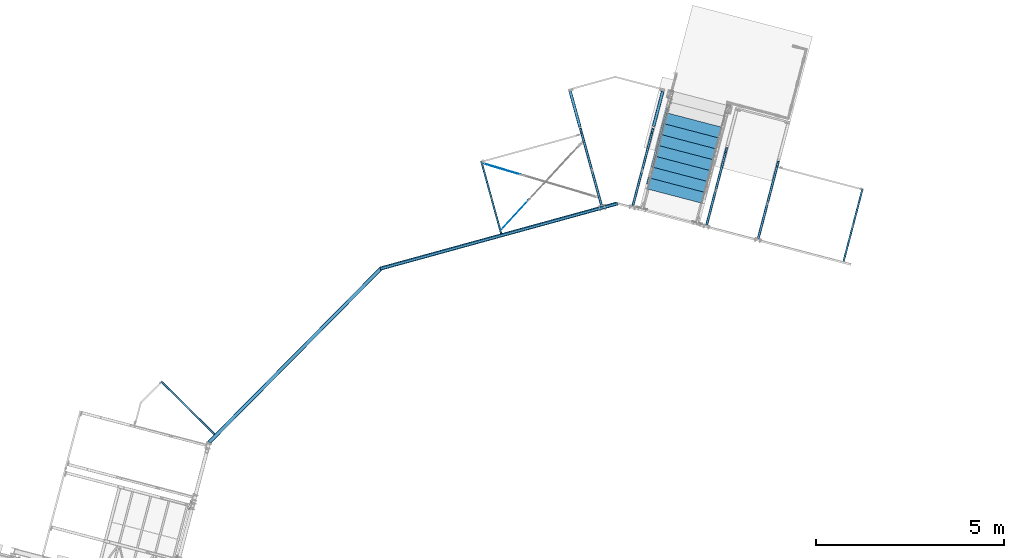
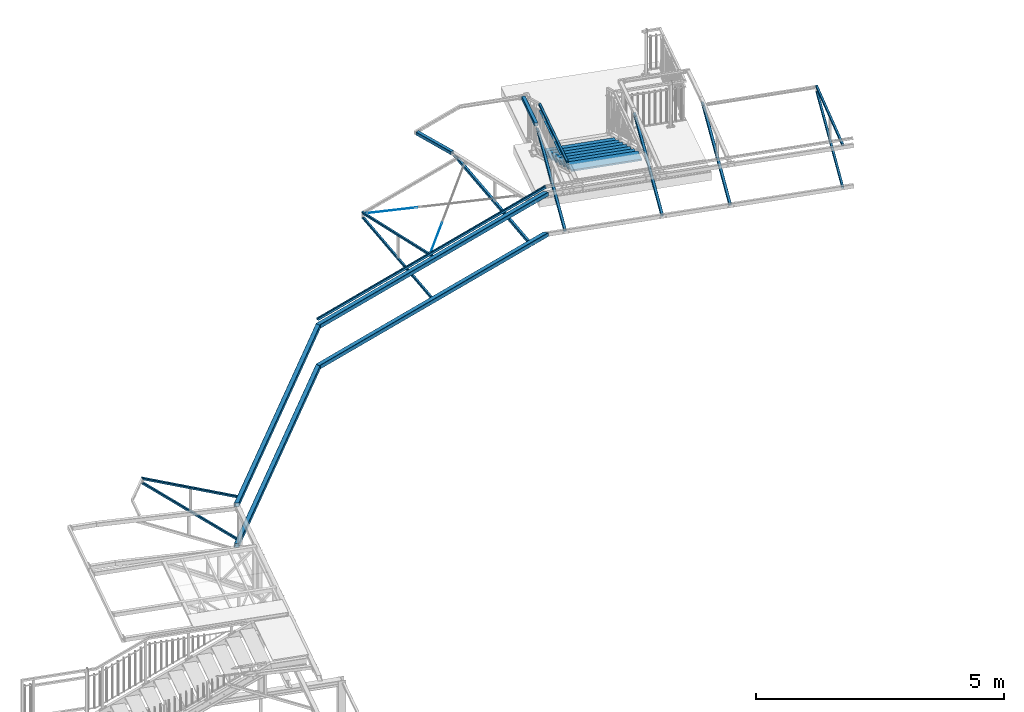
# One storey, part 50 of 169: 28 discrete accessories, 18 elements without a shape of their own.
"""IFC2X3 building model written with IfcOpenShell, lengths in millimetres."""

from ifc_helpers import new_model, si_unit, frame, origin_with_axes, origin_2d_with_axis, place, context, subcontext, project, spatial, polyline, hollow_rectangle, circle, l_section, outline, extrude, boolean, clip, halfspace, material, type_object, element, aggregate, save


model = new_model("IFC2X3")

# Units and contexts
model_context = context("Model", 3, precision=1e-05, world=origin_with_axes())
body_context = subcontext(model_context, "Body", "Model", "MODEL_VIEW")
ifc_project = project(units=[si_unit("LENGTHUNIT", "METRE", prefix="MILLI"), si_unit("AREAUNIT", "SQUARE_METRE"), si_unit("VOLUMEUNIT", "CUBIC_METRE"), si_unit("MASSUNIT", "GRAM", prefix="KILO"), si_unit("TIMEUNIT", "SECOND"), si_unit("PLANEANGLEUNIT", "RADIAN"), si_unit("SOLIDANGLEUNIT", "STERADIAN"), si_unit("THERMODYNAMICTEMPERATUREUNIT", "DEGREE_CELSIUS"), si_unit("LUMINOUSINTENSITYUNIT", "LUMEN")], contexts=[model_context])

# Site, building, storey
site_placement = place(None, origin_with_axes())
site = spatial("IfcSite", under=ifc_project, at=site_placement, Name="Undefined", CompositionType="ELEMENT")
building_placement = place(site_placement, origin_with_axes())
building = spatial("IfcBuilding", under=site, at=building_placement, Name="Undefined", CompositionType="ELEMENT")
storey_placement = place(building_placement, origin_with_axes())
storey = spatial("IfcBuildingStorey", under=building, at=storey_placement, Name="Undefined", CompositionType="ELEMENT", Elevation=0.0)

# Assembly, discrete accessories
assembly_1_placement = place(storey_placement, origin_with_axes())
assembly_1 = element("IfcElementAssembly", 1, at=assembly_1_placement, inside=storey, Name="Steel Assembly", AssemblyPlace="NOTDEFINED", PredefinedType="RIGID_FRAME")
ifc_material_1 = material(Name="STEEL/S235")
discrete_accessory_type_1 = type_object("IfcDiscreteAccessoryType", Name="BEAM")
discrete_accessory_1_placement = place(assembly_1_placement, frame((-17909.7002289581, 16537.7129139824, 13827.2364865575), z_axis=(0.000325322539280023, 0.000595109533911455, 0.999999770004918), x_axis=(-0.702997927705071, -0.711191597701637, 0.00065192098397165)))
discrete_accessory_1 = element("IfcDiscreteAccessory", 2, at=discrete_accessory_1_placement, type_object=discrete_accessory_type_1, material=ifc_material_1, Name="BEAM", ObjectType="SHS100*5", context=body_context, shape_type="Clipping", body=[
    clip(extrude(hollow_rectangle(XDim=100.0, YDim=100.0, WallThickness=5.0, InnerFilletRadius=5.0, OuterFilletRadius=10.0, at=origin_2d_with_axis()), frame((6612.14892398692, -6.80554979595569e-13, -3.63726191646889e-12), z_axis=(-1.0, -3.46944695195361e-18, -1.38777878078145e-17), x_axis=(1.73472347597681e-18, -1.0, 0.0)), (0.0, 0.0, 1.0), 6612.15), halfspace(frame((6497.75322202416, 50.0520062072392, -0.0521146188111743), z_axis=(0.965777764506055, 0.259370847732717, -0.000270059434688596), x_axis=(-8.63719833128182e-11, -0.00104120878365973, -0.999999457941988)), False)),
])
discrete_accessory_2_placement = place(assembly_1_placement, frame((-17910.1098303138, 16537.2011124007, 12827.2367014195), z_axis=(0.000325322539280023, 0.000595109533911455, 0.999999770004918), x_axis=(-0.702997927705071, -0.711191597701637, 0.00065192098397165)))
discrete_accessory_2 = element("IfcDiscreteAccessory", 3, at=discrete_accessory_2_placement, type_object=discrete_accessory_type_1, material=ifc_material_1, Name="BEAM", ObjectType="SHS100*5", context=body_context, shape_type="Clipping", body=[
    clip(extrude(hollow_rectangle(XDim=100.0, YDim=100.0, WallThickness=5.0, InnerFilletRadius=5.0, OuterFilletRadius=10.0, at=origin_2d_with_axis()), frame((6611.61544886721, 3.32450324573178e-12, 7.16832783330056e-16), z_axis=(-1.0, -3.46944695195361e-18, -1.38777878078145e-17), x_axis=(1.73472347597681e-18, -1.0, 0.0)), (0.0, 0.0, 1.0), 6611.62), halfspace(frame((6497.21974690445, 50.0520062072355, -0.0521146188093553), z_axis=(0.965777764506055, 0.259370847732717, -0.000270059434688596), x_axis=(-8.63719833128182e-11, -0.00104120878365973, -0.999999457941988)), False)),
])

# Assembly, discrete accessory
assembly_2_placement = place(storey_placement, origin_with_axes())
assembly_2 = element("IfcElementAssembly", 4, at=assembly_2_placement, inside=storey, Name="Steel Assembly", AssemblyPlace="NOTDEFINED", PredefinedType="RIGID_FRAME")
discrete_accessory_3_placement = place(assembly_2_placement, frame((-17934.864980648, 16527.4812095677, 14004.4176077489), z_axis=(0.0, 0.0, 1.0), x_axis=(0.964248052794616, 0.265001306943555, 0.0)))
discrete_accessory_3 = element("IfcDiscreteAccessory", 5, at=discrete_accessory_3_placement, type_object=discrete_accessory_type_1, material=ifc_material_1, Name="BEAM", ObjectType="L40*60*6", context=body_context, shape_type="Clipping", body=[
    clip(extrude(l_section(Depth=40.0, Width=60.0, Thickness=6.0, FilletRadius=9.0, at=origin_2d_with_axis()), frame((6575.31260041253, 3.63797880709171e-12, -3.63797880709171e-12), z_axis=(-1.0, -3.46944695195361e-18, -1.38777878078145e-17), x_axis=(1.73472347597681e-18, -1.0, 0.0)), (0.0, 0.0, 1.0), 6575.31), halfspace(frame((6543.28280246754, -30.0000008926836, -1.33928369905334e-06), z_axis=(0.965925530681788, -0.258820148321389, -1.15544247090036e-08), x_axis=(0.0, 0.0, 1.0)), False)),
])
aggregate(assembly_2, [discrete_accessory_3])

# Discrete accessory
discrete_accessory_4_placement = place(assembly_1_placement, frame((-23761.2672779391, 13517.9574207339, 13852.1856614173), z_axis=(-0.703030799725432, -0.711159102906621, 0.000651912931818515), x_axis=(0.629514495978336, -0.622745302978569, -0.46465017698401)))
discrete_accessory_4 = element("IfcDiscreteAccessory", 6, at=discrete_accessory_4_placement, type_object=discrete_accessory_type_1, material=ifc_material_1, Name="BEAM", ObjectType="SHS50*4", context=body_context, shape_type="Clipping", body=[
    clip(clip(extrude(hollow_rectangle(XDim=50.0, YDim=50.0, WallThickness=4.0, InnerFilletRadius=4.0, OuterFilletRadius=8.0, at=origin_2d_with_axis()), frame((2333.39405364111, 1.81898940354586e-12, 8.36001952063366e-13), z_axis=(-1.0, -3.46944695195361e-18, -1.38777878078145e-17), x_axis=(1.73472347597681e-18, -1.0, 0.0)), (0.0, 0.0, 1.0), 2405.73), halfspace(frame((2258.19859049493, -23.2407938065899, 1000.00227735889), z_axis=(-0.885407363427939, -0.464815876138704, 4.55740520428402e-05), x_axis=(0.464815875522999, -0.885407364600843, -2.39244265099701e-05)), True)), halfspace(frame((30.2237848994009, 25.0000000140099, 1.33259163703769e-08), z_axis=(-0.855788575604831, 0.517325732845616, 7.30462110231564e-10), x_axis=(0.0, 0.0, 1.0)), False)),
])

discrete_accessory_5_placement = place(assembly_1_placement, frame((-22347.9672122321, 12120.9428857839, 13855.4534594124), z_axis=(-0.035840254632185, 0.0345118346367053, -0.998761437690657), x_axis=(-0.710288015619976, 0.70215081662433, 0.0497510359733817)))
discrete_accessory_5 = element("IfcDiscreteAccessory", 7, at=discrete_accessory_5_placement, type_object=discrete_accessory_type_1, material=ifc_material_1, Name="BEAM", ObjectType="SHS50*4", context=body_context, shape_type="Clipping", body=[
    clip(clip(extrude(hollow_rectangle(XDim=50.0, YDim=50.0, WallThickness=4.0, InnerFilletRadius=4.0, OuterFilletRadius=8.0, at=origin_2d_with_axis()), frame((2054.56660579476, 3.50768014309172e-12, 1.83324582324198e-12), z_axis=(-1.0, -3.46944695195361e-18, -1.38777878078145e-17), x_axis=(1.73472347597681e-18, -1.0, 0.0)), (0.0, 0.0, 1.0), 2134.29), halfspace(frame((2002.59388138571, 7.60674629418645e-06, -25.0000000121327), z_axis=(-0.689225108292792, 2.3570835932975e-07, -0.724547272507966), x_axis=(0.0, 1.0, 0.0)), True)), halfspace(frame((48.3416809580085, 1.61845782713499e-05, -996.255438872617), z_axis=(0.998752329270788, -1.61183526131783e-08, 0.0499378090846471), x_axis=(1.73472347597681e-18, -1.0, 0.0)), True)),
])

aggregate(assembly_1, [discrete_accessory_1, discrete_accessory_2, discrete_accessory_4, discrete_accessory_5])

# Assembly, discrete accessory
assembly_3_placement = place(storey_placement, origin_with_axes())
assembly_3 = element("IfcElementAssembly", 8, at=assembly_3_placement, inside=storey, Name="Steel Assembly", AssemblyPlace="NOTDEFINED", PredefinedType="RIGID_FRAME")
discrete_accessory_6_placement = place(assembly_3_placement, frame((-14702.9087988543, 17576.6835164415, 13861.718395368), z_axis=(0.013233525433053, -0.0481524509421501, 0.998752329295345), x_axis=(0.678875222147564, 0.733779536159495, 0.0263822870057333)))
discrete_accessory_6 = element("IfcDiscreteAccessory", 9, at=discrete_accessory_6_placement, type_object=discrete_accessory_type_1, material=ifc_material_1, Name="BEAM", ObjectType="D10", context=body_context, shape_type="CSG", body=[
    boolean("DIFFERENCE", boolean("UNION", extrude(circle(Radius=5.0, at=origin_2d_with_axis()), frame((1047.8044891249, -3.72704370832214e-12, 1.82262470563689e-12), z_axis=(-1.0, -3.46944695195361e-18, -1.38777878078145e-17), x_axis=(1.73472347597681e-18, -1.0, 0.0)), (0.0, 0.0, 1.0), 1047.8), extrude(circle(Radius=5.0, at=origin_2d_with_axis()), frame((1047.8044891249, -3.72704370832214e-12, 1.82262470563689e-12), z_axis=(-1.0, -3.46944695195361e-18, -1.38777878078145e-17), x_axis=(-2.54700353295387e-10, 0.0, -1.0)), (0.0, 0.0, 1.0), 100.0)), halfspace(frame((1047.80448912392, 5.02801412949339e-07, -5.00000045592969), z_axis=(1.0, 0.0, 0.0), x_axis=(1.73472347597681e-18, -1.0, 0.0)), False)),
])
aggregate(assembly_3, [discrete_accessory_6])

assembly_4_placement = place(storey_placement, origin_with_axes())
assembly_4 = element("IfcElementAssembly", 10, at=assembly_4_placement, inside=storey, Name="Steel Assembly", AssemblyPlace="NOTDEFINED", PredefinedType="RIGID_FRAME")
discrete_accessory_7_placement = place(assembly_4_placement, frame((-15182.9696449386, 19323.4610377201, 13952.2959233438), z_axis=(0.013233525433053, -0.0481524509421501, 0.998752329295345), x_axis=(0.958527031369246, -0.283777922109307, -0.0263822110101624)))
discrete_accessory_7 = element("IfcDiscreteAccessory", 11, at=discrete_accessory_7_placement, type_object=discrete_accessory_type_1, material=ifc_material_1, Name="BEAM", ObjectType="D10", context=body_context, shape_type="CSG", body=[
    boolean("DIFFERENCE", boolean("UNION", extrude(circle(Radius=5.0, at=origin_2d_with_axis()), frame((1047.8044891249, -3.72704370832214e-12, 1.82262470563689e-12), z_axis=(-1.0, -3.46944695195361e-18, -1.38777878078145e-17), x_axis=(1.73472347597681e-18, -1.0, 0.0)), (0.0, 0.0, 1.0), 1047.8), extrude(circle(Radius=5.0, at=origin_2d_with_axis()), frame((1047.8044891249, -3.72704370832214e-12, 1.82262470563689e-12), z_axis=(-1.0, -3.46944695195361e-18, -1.38777878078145e-17), x_axis=(-2.54700353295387e-10, 0.0, -1.0)), (0.0, 0.0, 1.0), 100.0)), halfspace(frame((1047.80448912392, 5.02801412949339e-07, -5.00000045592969), z_axis=(1.0, 0.0, 0.0), x_axis=(1.73472347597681e-18, -1.0, 0.0)), False)),
])
aggregate(assembly_4, [discrete_accessory_7])

# Assembly, discrete accessories
assembly_5_placement = place(storey_placement, origin_with_axes())
assembly_5 = element("IfcElementAssembly", 12, at=assembly_5_placement, inside=storey, Name="Steel Assembly", AssemblyPlace="NOTDEFINED", PredefinedType="RIGID_FRAME")
ifc_material_2 = material(Name="STEEL/S355")
discrete_accessory_8_placement = place(assembly_5_placement, frame((-15242.9229703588, 19381.4102879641, 13853.6262907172), z_axis=(-0.964260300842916, -0.264956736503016, -2.76482751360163e-10), x_axis=(0.234594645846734, -0.853763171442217, -0.464815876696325)))
discrete_accessory_8 = element("IfcDiscreteAccessory", 13, at=discrete_accessory_8_placement, type_object=discrete_accessory_type_1, material=ifc_material_2, Name="BEAM", ObjectType="SHS50*4", context=body_context, shape_type="Clipping", body=[
    clip(clip(extrude(hollow_rectangle(XDim=50.0, YDim=50.0, WallThickness=4.0, InnerFilletRadius=4.0, OuterFilletRadius=8.0, at=origin_2d_with_axis()), frame((2311.44514548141, -1.69067842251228e-12, -1.81269287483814e-12), z_axis=(-1.0, -3.46944695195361e-18, -1.38777878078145e-17), x_axis=(1.73472347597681e-18, -1.0, 0.0)), (0.0, 0.0, 1.0), 2361.89), halfspace(frame((2258.14268853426, -23.2407957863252, 1000.00230978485), z_axis=(-0.885407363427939, -0.464815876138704, 4.55740520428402e-05), x_axis=(0.464815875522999, -0.885407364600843, -2.39244265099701e-05)), True)), halfspace(frame((30.2237848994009, 25.0000000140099, 1.33259163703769e-08), z_axis=(-0.855788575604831, 0.517325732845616, 7.30462110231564e-10), x_axis=(0.0, 0.0, 1.0)), False)),
])
discrete_accessory_9_placement = place(assembly_5_placement, frame((-14716.30547153, 17465.2310199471, 13856.5224888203), z_axis=(-0.0132335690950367, 0.0481524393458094, -0.99875232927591), x_axis=(-0.264670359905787, 0.96304507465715, 0.0499378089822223)))
discrete_accessory_9 = element("IfcDiscreteAccessory", 14, at=discrete_accessory_9_placement, type_object=discrete_accessory_type_1, material=ifc_material_2, Name="BEAM", ObjectType="SHS50*4", context=body_context, shape_type="CSG", body=[
    boolean("DIFFERENCE", boolean("DIFFERENCE", extrude(hollow_rectangle(XDim=50.0, YDim=50.0, WallThickness=4.0, InnerFilletRadius=4.0, OuterFilletRadius=8.0, at=origin_2d_with_axis()), frame((2021.0559429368, -3.82581100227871e-14, 1.40238927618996e-14), z_axis=(-1.0, -3.46944695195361e-18, -1.38777878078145e-17), x_axis=(1.73472347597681e-18, -1.0, 0.0)), (0.0, 0.0, 1.0), 2021.06), extrude(outline(polyline([(0.0, 0.0), (67.0000000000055, -8.36735125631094e-11), (67.0000000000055, 24.9999999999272), (-6.99999999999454, 24.9999999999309), (0.0, 0.0)])), frame((7.08496076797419, -27.9996776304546, 33.3353439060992), z_axis=(0.0, 1.0, 0.0), x_axis=(0.0499378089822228, -8.51138014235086e-11, -0.99875232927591)), (0.0, 0.0, 1.0), 56.0)), halfspace(frame((2002.59388138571, 7.60674629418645e-06, -25.0000000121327), z_axis=(-0.689225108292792, 2.3570835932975e-07, -0.724547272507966), x_axis=(0.0, 1.0, 0.0)), True)),
])

assembly_6_placement = place(storey_placement, origin_with_axes())
assembly_6 = element("IfcElementAssembly", 15, at=assembly_6_placement, inside=storey, Name="Steel Assembly", AssemblyPlace="NOTDEFINED", PredefinedType="RIGID_FRAME")
discrete_accessory_10_placement = place(assembly_6_placement, frame((-12617.6266953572, 20299.8860769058, 13950.4176077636), z_axis=(-2.54700353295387e-10, 0.0, -1.0), x_axis=(-0.265001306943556, 0.964248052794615, 0.0)))
discrete_accessory_10 = element("IfcDiscreteAccessory", 16, at=discrete_accessory_10_placement, type_object=discrete_accessory_type_1, material=ifc_material_1, Name="BEAM", ObjectType="SHS80*4", context=body_context, shape_type="Clipping", body=[
    clip(clip(extrude(hollow_rectangle(XDim=80.0, YDim=80.0, WallThickness=4.0, InnerFilletRadius=4.0, OuterFilletRadius=8.0, at=origin_2d_with_axis()), frame((995.045780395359, -9.09494701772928e-13, -1.81898940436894e-12), z_axis=(-1.0, -3.46944695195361e-18, -1.38777878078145e-17), x_axis=(1.73472347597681e-18, -1.0, 0.0)), (0.0, 0.0, 1.0), 1036.35), halfspace(frame((995.045780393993, -6.70120243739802e-07, -40.0000000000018), z_axis=(-0.99999999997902, 6.47770058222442e-06, -1.08520736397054e-13), x_axis=(6.47770058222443e-06, 0.99999999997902, -1.67529760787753e-08)), True)), halfspace(frame((1.02154190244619e-05, 0.00025891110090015, -40.0002588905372), z_axis=(-0.999688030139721, -1.62913579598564e-07, 0.0249768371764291), x_axis=(-1.25063525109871e-09, 0.999999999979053, 6.47253026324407e-06)), False)),
])
discrete_accessory_11_placement = place(assembly_6_placement, frame((-12562.356019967, 20098.7725410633, 13849.4885854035), z_axis=(-0.964260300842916, -0.264956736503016, -2.76482751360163e-10), x_axis=(0.234594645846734, -0.853763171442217, -0.464815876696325)))
discrete_accessory_11 = element("IfcDiscreteAccessory", 17, at=discrete_accessory_11_placement, type_object=discrete_accessory_type_1, material=ifc_material_1, Name="BEAM", ObjectType="SHS60*4", context=body_context, shape_type="Clipping", body=[
    clip(clip(extrude(hollow_rectangle(XDim=60.0, YDim=60.0, WallThickness=4.0, InnerFilletRadius=4.0, OuterFilletRadius=8.0, at=origin_2d_with_axis()), frame((2318.94850616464, -4.54747350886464e-13, -3.45133275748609e-14), z_axis=(-1.0, -3.46944695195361e-18, -1.38777878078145e-17), x_axis=(1.73472347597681e-18, -1.0, 0.0)), (0.0, 0.0, 1.0), 2547.59), halfspace(frame((2194.40703923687, 30.0000688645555, -1.35423761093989e-08), z_axis=(-0.885407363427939, -0.464815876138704, 4.55740520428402e-05), x_axis=(4.09255337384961e-05, 2.14852939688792e-05, 0.999999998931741)), True)), halfspace(frame((-198.283756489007, -36.3005821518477, 1000.00009235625), z_axis=(0.420020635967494, -0.907514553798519, 2.31037038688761e-06), x_axis=(0.907514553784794, 0.420020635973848, 4.99097867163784e-06)), True)),
])
aggregate(assembly_6, [discrete_accessory_10, discrete_accessory_11])

assembly_7_placement = place(storey_placement, origin_with_axes())
assembly_7 = element("IfcElementAssembly", 18, at=assembly_7_placement, inside=storey, Name="Steel Assembly", AssemblyPlace="NOTDEFINED", PredefinedType="RIGID_FRAME")
discrete_accessory_12_placement = place(assembly_7_placement, frame((-10656.8294524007, 20316.0997769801, 13950.417607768), z_axis=(-2.54700353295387e-10, 0.0, -1.0), x_axis=(0.252628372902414, 0.967563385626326, 0.0)))
discrete_accessory_12 = element("IfcDiscreteAccessory", 19, at=discrete_accessory_12_placement, type_object=discrete_accessory_type_1, material=ifc_material_1, Name="BEAM", ObjectType="SHS80*4", context=body_context, shape_type="Clipping", body=[
    clip(clip(extrude(hollow_rectangle(XDim=80.0, YDim=80.0, WallThickness=4.0, InnerFilletRadius=4.0, OuterFilletRadius=8.0, at=origin_2d_with_axis()), frame((974.832227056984, -3.58386474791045e-12, 0.0), z_axis=(-1.0, -3.46944695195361e-18, -1.38777878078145e-17), x_axis=(1.73472347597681e-18, -1.0, 0.0)), (0.0, 0.0, 1.0), 1014.34), halfspace(frame((974.832227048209, 5.05679054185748e-10, 40.0), z_axis=(-1.0, -3.46944695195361e-18, -1.38777878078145e-17), x_axis=(1.73472347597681e-18, -1.0, 0.0)), True)), halfspace(frame((1.02154190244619e-05, 0.00025891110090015, -40.0002588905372), z_axis=(-0.999688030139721, -1.62913579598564e-07, 0.0249768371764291), x_axis=(-1.25063525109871e-09, 0.999999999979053, 6.47253026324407e-06)), False)),
])
discrete_accessory_13_placement = place(assembly_7_placement, frame((-10710.523005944, 20110.4569694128, 13857.0448251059), z_axis=(-0.967551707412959, 0.252673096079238, -1.45282683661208e-11), x_axis=(-0.22371861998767, -0.856677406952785, -0.464815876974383)))
discrete_accessory_13 = element("IfcDiscreteAccessory", 20, at=discrete_accessory_13_placement, type_object=discrete_accessory_type_1, material=ifc_material_1, Name="BEAM", ObjectType="SHS60*4", context=body_context, shape_type="Clipping", body=[
    clip(clip(extrude(hollow_rectangle(XDim=60.0, YDim=60.0, WallThickness=4.0, InnerFilletRadius=4.0, OuterFilletRadius=8.0, at=origin_2d_with_axis()), frame((2336.13761597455, -1.68930771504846e-12, 1.81877505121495e-12), z_axis=(-1.0, -3.46944695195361e-18, -1.38777878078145e-17), x_axis=(1.73472347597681e-18, -1.0, 0.0)), (0.0, 0.0, 1.0), 2545.15), halfspace(frame((2212.77988824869, 30.0000688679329, -4.85670170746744e-10), z_axis=(-0.885407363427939, -0.464815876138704, 4.55740520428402e-05), x_axis=(4.09255337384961e-05, 2.14852939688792e-05, 0.999999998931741)), True)), halfspace(frame((-179.844406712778, -36.3005821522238, 1000.00009232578), z_axis=(0.420020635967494, -0.907514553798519, 2.31037038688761e-06), x_axis=(0.907514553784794, 0.420020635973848, 4.99097867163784e-06)), True)),
])
aggregate(assembly_7, [discrete_accessory_12, discrete_accessory_13])

# Discrete accessory
discrete_accessory_14_placement = place(assembly_5_placement, frame((-5095.39755402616, 18646.7637913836, 13852.615452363), z_axis=(-0.967551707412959, 0.252673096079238, -1.45282683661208e-11), x_axis=(-0.22371861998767, -0.856677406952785, -0.464815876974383)))
discrete_accessory_14 = element("IfcDiscreteAccessory", 21, at=discrete_accessory_14_placement, type_object=discrete_accessory_type_1, material=ifc_material_1, Name="BEAM", ObjectType="SHS50*4", context=body_context, shape_type="Clipping", body=[
    clip(clip(extrude(hollow_rectangle(XDim=50.0, YDim=50.0, WallThickness=4.0, InnerFilletRadius=4.0, OuterFilletRadius=8.0, at=origin_2d_with_axis()), frame((2310.40536461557, -7.81241440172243e-13, -4.35565030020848e-14), z_axis=(-1.0, -3.46944695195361e-18, -1.38777878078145e-17), x_axis=(1.73472347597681e-18, -1.0, 0.0)), (0.0, 0.0, 1.0), 2359.86), halfspace(frame((2253.20921889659, -13.9444774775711, 1000.00138531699), z_axis=(-0.885407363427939, -0.464815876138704, 4.55740520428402e-05), x_axis=(0.464815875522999, -0.885407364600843, -2.39244265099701e-05)), True)), halfspace(frame((30.2237848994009, 25.0000000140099, 1.33259163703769e-08), z_axis=(-0.855788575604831, 0.517325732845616, 7.30462110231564e-10), x_axis=(0.0, 0.0, 1.0)), False)),
])

discrete_accessory_15_placement = place(assembly_5_placement, frame((-5597.42744842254, 16723.9962645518, 13855.5116504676), z_axis=(0.0126157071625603, 0.0483179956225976, -0.998752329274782), x_axis=(0.25231349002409, 0.966356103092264, 0.0499378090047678)))
discrete_accessory_15 = element("IfcDiscreteAccessory", 22, at=discrete_accessory_15_placement, type_object=discrete_accessory_type_1, material=ifc_material_1, Name="BEAM", ObjectType="SHS50*4", context=body_context, shape_type="Clipping", body=[
    clip(extrude(hollow_rectangle(XDim=50.0, YDim=50.0, WallThickness=4.0, InnerFilletRadius=4.0, OuterFilletRadius=8.0, at=origin_2d_with_axis()), frame((2030.03246341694, -1.83655767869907e-12, -1.83307558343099e-12), z_axis=(-1.0, -3.46944695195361e-18, -1.38777878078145e-17), x_axis=(1.73472347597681e-18, -1.0, 0.0)), (0.0, 0.0, 1.0), 2030.03), halfspace(frame((2002.59388138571, 7.60674629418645e-06, -25.0000000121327), z_axis=(-0.689225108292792, 2.3570835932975e-07, -0.724547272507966), x_axis=(0.0, 1.0, 0.0)), True)),
])

discrete_accessory_16_placement = place(assembly_5_placement, frame((-17934.8649346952, 16527.4813856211, 12831.4804586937), z_axis=(0.0, 0.0, 1.0), x_axis=(0.964248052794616, 0.265001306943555, 0.0)))
discrete_accessory_16 = element("IfcDiscreteAccessory", 23, at=discrete_accessory_16_placement, type_object=discrete_accessory_type_1, material=ifc_material_1, Name="BEAM", ObjectType="SHS100*5", context=body_context, shape_type="Clipping", body=[
    clip(extrude(hollow_rectangle(XDim=100.0, YDim=100.0, WallThickness=5.0, InnerFilletRadius=5.0, OuterFilletRadius=10.0, at=origin_2d_with_axis()), frame((6626.03241930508, 7.27595761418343e-12, 0.0), z_axis=(-1.0, -3.46944695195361e-18, -1.38777878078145e-17), x_axis=(1.73472347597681e-18, -1.0, 0.0)), (0.0, 0.0, 1.0), 6626.03), halfspace(frame((6577.92363608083, -49.9999999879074, -2.24960785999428e-06), z_axis=(0.882824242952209, 0.469703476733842, 2.09688237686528e-08), x_axis=(0.0, 0.0, 1.0)), False)),
])

aggregate(assembly_5, [discrete_accessory_8, discrete_accessory_9, discrete_accessory_14, discrete_accessory_15, discrete_accessory_16])

# Assembly, discrete accessory
assembly_8_placement = place(storey_placement, origin_with_axes())
assembly_8 = element("IfcElementAssembly", 24, at=assembly_8_placement, inside=storey, Name="Steel Assembly", AssemblyPlace="NOTDEFINED", PredefinedType="RIGID_FRAME")
discrete_accessory_17_placement = place(assembly_8_placement, frame((-17934.8649346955, 16527.4813856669, 13830.4804586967), z_axis=(0.0, 0.0, 1.0), x_axis=(0.964248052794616, 0.265001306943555, 0.0)))
discrete_accessory_17 = element("IfcDiscreteAccessory", 25, at=discrete_accessory_17_placement, type_object=discrete_accessory_type_1, material=ifc_material_1, Name="BEAM", ObjectType="SHS100*5", context=body_context, shape_type="Clipping", body=[
    clip(extrude(hollow_rectangle(XDim=100.0, YDim=100.0, WallThickness=5.0, InnerFilletRadius=5.0, OuterFilletRadius=10.0, at=origin_2d_with_axis()), frame((6626.03241930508, 7.27595761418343e-12, 0.0), z_axis=(-1.0, -3.46944695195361e-18, -1.38777878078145e-17), x_axis=(1.73472347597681e-18, -1.0, 0.0)), (0.0, 0.0, 1.0), 6626.03), halfspace(frame((6577.92363608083, -49.9999999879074, -2.24960785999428e-06), z_axis=(0.882824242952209, 0.469703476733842, 2.09688237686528e-08), x_axis=(0.0, 0.0, 1.0)), False)),
])
aggregate(assembly_8, [discrete_accessory_17])

assembly_9_placement = place(storey_placement, origin_with_axes())
assembly_9 = element("IfcElementAssembly", 26, at=assembly_9_placement, inside=storey, Name="Steel Assembly", AssemblyPlace="NOTDEFINED", PredefinedType="RIGID_FRAME")
discrete_accessory_18_placement = place(assembly_9_placement, frame((-7372.347592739, 19238.8677427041, 13857.0448251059), z_axis=(-0.967551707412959, 0.252673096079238, -1.45282683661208e-11), x_axis=(-0.22371861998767, -0.856677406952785, -0.464815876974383)))
discrete_accessory_18 = element("IfcDiscreteAccessory", 27, at=discrete_accessory_18_placement, type_object=discrete_accessory_type_1, material=ifc_material_1, Name="BEAM", ObjectType="SHS60*4", context=body_context, shape_type="Clipping", body=[
    clip(clip(extrude(hollow_rectangle(XDim=60.0, YDim=60.0, WallThickness=4.0, InnerFilletRadius=4.0, OuterFilletRadius=8.0, at=origin_2d_with_axis()), frame((2336.13761597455, -1.68930771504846e-12, 1.81877505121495e-12), z_axis=(-1.0, -3.46944695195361e-18, -1.38777878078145e-17), x_axis=(1.73472347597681e-18, -1.0, 0.0)), (0.0, 0.0, 1.0), 2545.15), halfspace(frame((2212.77988824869, 30.0000688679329, -4.85670170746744e-10), z_axis=(-0.885407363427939, -0.464815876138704, 4.55740520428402e-05), x_axis=(4.09255337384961e-05, 2.14852939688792e-05, 0.999999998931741)), True)), halfspace(frame((-179.844406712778, -36.3005821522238, 1000.00009232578), z_axis=(0.420020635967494, -0.907514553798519, 2.31037038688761e-06), x_axis=(0.907514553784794, 0.420020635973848, 4.99097867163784e-06)), True)),
])
aggregate(assembly_9, [discrete_accessory_18])

assembly_10_placement = place(storey_placement, origin_with_axes())
assembly_10 = element("IfcElementAssembly", 28, at=assembly_10_placement, inside=storey, Name="Steel Assembly", AssemblyPlace="NOTDEFINED", PredefinedType="RIGID_FRAME")
discrete_accessory_19_placement = place(assembly_10_placement, frame((-8746.28760032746, 19597.60003223, 13857.0448251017), z_axis=(-0.967551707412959, 0.252673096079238, -1.45282683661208e-11), x_axis=(-0.22371861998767, -0.856677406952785, -0.464815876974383)))
discrete_accessory_19 = element("IfcDiscreteAccessory", 29, at=discrete_accessory_19_placement, type_object=discrete_accessory_type_1, material=ifc_material_1, Name="BEAM", ObjectType="SHS60*4", context=body_context, shape_type="Clipping", body=[
    clip(clip(extrude(hollow_rectangle(XDim=60.0, YDim=60.0, WallThickness=4.0, InnerFilletRadius=4.0, OuterFilletRadius=8.0, at=origin_2d_with_axis()), frame((2336.13761597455, -1.68930771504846e-12, 1.81877505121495e-12), z_axis=(-1.0, -3.46944695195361e-18, -1.38777878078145e-17), x_axis=(1.73472347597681e-18, -1.0, 0.0)), (0.0, 0.0, 1.0), 2545.15), halfspace(frame((2212.77988824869, 30.0000688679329, -4.85670170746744e-10), z_axis=(-0.885407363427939, -0.464815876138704, 4.55740520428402e-05), x_axis=(4.09255337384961e-05, 2.14852939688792e-05, 0.999999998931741)), True)), halfspace(frame((-179.844406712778, -36.3005821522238, 1000.00009232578), z_axis=(0.420020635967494, -0.907514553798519, 2.31037038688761e-06), x_axis=(0.907514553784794, 0.420020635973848, 4.99097867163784e-06)), True)),
])
aggregate(assembly_10, [discrete_accessory_19])

# Assembly, discrete accessories
assembly_11_placement = place(storey_placement, origin_with_axes())
assembly_11 = element("IfcElementAssembly", 30, at=assembly_11_placement, inside=storey, Name="Steel Assembly", AssemblyPlace="NOTDEFINED", PredefinedType="RIGID_FRAME")
discrete_accessory_type_2 = type_object("IfcDiscreteAccessoryType", Name="PORĘCZ")
discrete_accessory_20_placement = place(assembly_11_placement, frame((-10821.6407976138, 18774.4462435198, 13870.4176077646), z_axis=(-2.54700353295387e-10, 0.0, -1.0), x_axis=(0.252628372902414, 0.967563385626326, 0.0)))
discrete_accessory_20 = element("IfcDiscreteAccessory", 31, at=discrete_accessory_20_placement, type_object=discrete_accessory_type_2, material=ifc_material_1, Name="PORĘCZ", ObjectType="BL40*3", context=body_context, shape_type="Clipping", body=[
    clip(clip(extrude(outline(polyline([(472.411797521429, -19.9999999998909), (472.411797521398, 20.0000000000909), (2105.13920695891, 20.0000000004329), (2105.13920695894, -19.9999999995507), (472.411797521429, -19.9999999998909)])), frame((1.81898940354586e-12, -1.77635442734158e-15, -1.50000000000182), z_axis=(0.0, 0.0, 1.0), x_axis=(1.0, 0.0, 0.0)), (0.0, 0.0, 1.0), 3.0), halfspace(frame((469.696509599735, 1000.00000000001, -1.34427734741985), z_axis=(0.443680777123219, -6.25441316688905e-11, -0.89618489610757), x_axis=(-0.89618489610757, 8.07050632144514e-16, -0.443680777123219)), True)), halfspace(frame((2105.49018600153, 2.11002770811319e-10, -1.50000000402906), z_axis=(0.973700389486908, 0.0, 0.227832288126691), x_axis=(1.73472347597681e-18, -1.0, 0.0)), False)),
])
discrete_accessory_21_placement = place(assembly_11_placement, frame((-10821.6407975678, 18774.4462435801, 14015.4176077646), z_axis=(0.967563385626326, -0.252628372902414, 0.0), x_axis=(0.252628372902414, 0.967563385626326, 0.0)))
discrete_accessory_21 = element("IfcDiscreteAccessory", 32, at=discrete_accessory_21_placement, type_object=discrete_accessory_type_2, material=ifc_material_1, Name="PORĘCZ", ObjectType="SHS50*3", context=body_context, shape_type="Clipping", body=[
    clip(extrude(hollow_rectangle(XDim=50.0, YDim=50.0, WallThickness=3.0, InnerFilletRadius=3.0, OuterFilletRadius=6.0, at=origin_2d_with_axis()), frame((2135.73518441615, -1.81898940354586e-12, 0.0), z_axis=(-1.0, -3.46944695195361e-18, -1.38777878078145e-17), x_axis=(1.73472347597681e-18, -1.0, 0.0)), (0.0, 0.0, 1.0), 2135.74), halfspace(frame((2110.98885756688, 25.0000000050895, 3.2407660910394e-07), z_axis=(-0.973700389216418, 0.2278322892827, 0.0), x_axis=(0.0, 0.0, 1.0)), True)),
])
aggregate(assembly_11, [discrete_accessory_20, discrete_accessory_21])

# Assembly, discrete accessory
assembly_12_placement = place(storey_placement, origin_with_axes())
assembly_12 = element("IfcElementAssembly", 33, at=assembly_12_placement, inside=storey, Name="Steel Assembly", AssemblyPlace="NOTDEFINED", PredefinedType="RIGID_FRAME")
ifc_material_3 = material(Name="STEEL/S235JR")
discrete_accessory_type_3 = type_object("IfcDiscreteAccessoryType", Name="STOPNIE")
discrete_accessory_22_placement = place(assembly_12_placement, frame((-10771.3728075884, 18788.8447295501, 13873.0060245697), z_axis=(-2.54700353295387e-10, 0.0, -1.0), x_axis=(0.967563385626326, -0.252628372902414, 0.0)))
discrete_accessory_22 = element("IfcDiscreteAccessory", 34, at=discrete_accessory_22_placement, type_object=discrete_accessory_type_3, material=ifc_material_3, Name="STOPNIE", ObjectType="PL40*300", context=body_context, shape_type="SweptSolid", body=[
    extrude(outline(polyline([(-3.09228198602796e-11, 150.000000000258), (1479.99999863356, 149.999999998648), (1479.99999863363, -150.000000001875), (3.45607986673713e-11, -150.00000000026), (-3.09228198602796e-11, 150.000000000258)])), frame((0.0, 0.0, -20.0), z_axis=(0.0, 0.0, 1.0), x_axis=(1.0, 0.0, 0.0)), (0.0, 0.0, 1.0), 40.0),
])
aggregate(assembly_12, [discrete_accessory_22])

assembly_13_placement = place(storey_placement, origin_with_axes())
assembly_13 = element("IfcElementAssembly", 35, at=assembly_13_placement, inside=storey, Name="Steel Assembly", AssemblyPlace="NOTDEFINED", PredefinedType="RIGID_FRAME")
discrete_accessory_23_placement = place(assembly_13_placement, frame((-10695.8216023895, 19078.2048636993, 13725.5944414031), z_axis=(-2.54700353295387e-10, 0.0, -1.0), x_axis=(0.967563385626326, -0.252628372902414, 0.0)))
discrete_accessory_23 = element("IfcDiscreteAccessory", 36, at=discrete_accessory_23_placement, type_object=discrete_accessory_type_3, material=ifc_material_3, Name="STOPNIE", ObjectType="PL40*300", context=body_context, shape_type="SweptSolid", body=[
    extrude(outline(polyline([(-3.09228198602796e-11, 150.000000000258), (1479.99999863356, 149.999999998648), (1479.99999863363, -150.000000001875), (3.45607986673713e-11, -150.00000000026), (-3.09228198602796e-11, 150.000000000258)])), frame((0.0, 0.0, -20.0), z_axis=(0.0, 0.0, 1.0), x_axis=(1.0, 0.0, 0.0)), (0.0, 0.0, 1.0), 40.0),
])
aggregate(assembly_13, [discrete_accessory_23])

assembly_14_placement = place(storey_placement, origin_with_axes())
assembly_14 = element("IfcElementAssembly", 37, at=assembly_14_placement, inside=storey, Name="Steel Assembly", AssemblyPlace="NOTDEFINED", PredefinedType="RIGID_FRAME")
discrete_accessory_24_placement = place(assembly_14_placement, frame((-10620.2703971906, 19367.5649978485, 13578.1828582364), z_axis=(-2.54700353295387e-10, 0.0, -1.0), x_axis=(0.967563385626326, -0.252628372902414, 0.0)))
discrete_accessory_24 = element("IfcDiscreteAccessory", 38, at=discrete_accessory_24_placement, type_object=discrete_accessory_type_3, material=ifc_material_3, Name="STOPNIE", ObjectType="PL40*300", context=body_context, shape_type="SweptSolid", body=[
    extrude(outline(polyline([(-3.09228198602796e-11, 150.000000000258), (1479.99999863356, 149.999999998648), (1479.99999863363, -150.000000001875), (3.45607986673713e-11, -150.00000000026), (-3.09228198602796e-11, 150.000000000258)])), frame((0.0, 0.0, -20.0), z_axis=(0.0, 0.0, 1.0), x_axis=(1.0, 0.0, 0.0)), (0.0, 0.0, 1.0), 40.0),
])
aggregate(assembly_14, [discrete_accessory_24])

assembly_15_placement = place(storey_placement, origin_with_axes())
assembly_15 = element("IfcElementAssembly", 39, at=assembly_15_placement, inside=storey, Name="Steel Assembly", AssemblyPlace="NOTDEFINED", PredefinedType="RIGID_FRAME")
discrete_accessory_25_placement = place(assembly_15_placement, frame((-10544.7191919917, 19656.9251319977, 13430.7712750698), z_axis=(-2.54700353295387e-10, 0.0, -1.0), x_axis=(0.967563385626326, -0.252628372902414, 0.0)))
discrete_accessory_25 = element("IfcDiscreteAccessory", 40, at=discrete_accessory_25_placement, type_object=discrete_accessory_type_3, material=ifc_material_3, Name="STOPNIE", ObjectType="PL40*300", context=body_context, shape_type="SweptSolid", body=[
    extrude(outline(polyline([(-3.09228198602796e-11, 150.000000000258), (1479.99999863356, 149.999999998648), (1479.99999863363, -150.000000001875), (3.45607986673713e-11, -150.00000000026), (-3.09228198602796e-11, 150.000000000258)])), frame((0.0, 0.0, -20.0), z_axis=(0.0, 0.0, 1.0), x_axis=(1.0, 0.0, 0.0)), (0.0, 0.0, 1.0), 40.0),
])
aggregate(assembly_15, [discrete_accessory_25])

assembly_16_placement = place(storey_placement, origin_with_axes())
assembly_16 = element("IfcElementAssembly", 41, at=assembly_16_placement, inside=storey, Name="Steel Assembly", AssemblyPlace="NOTDEFINED", PredefinedType="RIGID_FRAME")
discrete_accessory_26_placement = place(assembly_16_placement, frame((-10469.1679867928, 19946.2852661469, 13283.3596919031), z_axis=(-2.54700353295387e-10, 0.0, -1.0), x_axis=(0.967563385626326, -0.252628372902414, 0.0)))
discrete_accessory_26 = element("IfcDiscreteAccessory", 42, at=discrete_accessory_26_placement, type_object=discrete_accessory_type_3, material=ifc_material_3, Name="STOPNIE", ObjectType="PL40*300", context=body_context, shape_type="SweptSolid", body=[
    extrude(outline(polyline([(-3.09228198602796e-11, 150.000000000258), (1479.99999863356, 149.999999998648), (1479.99999863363, -150.000000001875), (3.45607986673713e-11, -150.00000000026), (-3.09228198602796e-11, 150.000000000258)])), frame((0.0, 0.0, -20.0), z_axis=(0.0, 0.0, 1.0), x_axis=(1.0, 0.0, 0.0)), (0.0, 0.0, 1.0), 40.0),
])
aggregate(assembly_16, [discrete_accessory_26])

assembly_17_placement = place(storey_placement, origin_with_axes())
assembly_17 = element("IfcElementAssembly", 43, at=assembly_17_placement, inside=storey, Name="Steel Assembly", AssemblyPlace="NOTDEFINED", PredefinedType="RIGID_FRAME")
discrete_accessory_27_placement = place(assembly_17_placement, frame((-10393.6167815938, 20235.645400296, 13135.9481087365), z_axis=(-2.54700353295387e-10, 0.0, -1.0), x_axis=(0.967563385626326, -0.252628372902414, 0.0)))
discrete_accessory_27 = element("IfcDiscreteAccessory", 44, at=discrete_accessory_27_placement, type_object=discrete_accessory_type_3, material=ifc_material_3, Name="STOPNIE", ObjectType="PL40*300", context=body_context, shape_type="SweptSolid", body=[
    extrude(outline(polyline([(-3.09228198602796e-11, 150.000000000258), (1479.99999863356, 149.999999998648), (1479.99999863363, -150.000000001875), (3.45607986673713e-11, -150.00000000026), (-3.09228198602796e-11, 150.000000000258)])), frame((0.0, 0.0, -20.0), z_axis=(0.0, 0.0, 1.0), x_axis=(1.0, 0.0, 0.0)), (0.0, 0.0, 1.0), 40.0),
])
aggregate(assembly_17, [discrete_accessory_27])

assembly_18_placement = place(storey_placement, origin_with_axes())
assembly_18 = element("IfcElementAssembly", 45, at=assembly_18_placement, inside=storey, Name="Steel Assembly", AssemblyPlace="NOTDEFINED", PredefinedType="RIGID_FRAME")
discrete_accessory_28_placement = place(assembly_18_placement, frame((-10318.0655763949, 20525.0055344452, 12988.5365255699), z_axis=(-2.54700353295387e-10, 0.0, -1.0), x_axis=(0.967563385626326, -0.252628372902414, 0.0)))
discrete_accessory_28 = element("IfcDiscreteAccessory", 46, at=discrete_accessory_28_placement, type_object=discrete_accessory_type_3, material=ifc_material_3, Name="STOPNIE", ObjectType="PL40*300", context=body_context, shape_type="SweptSolid", body=[
    extrude(outline(polyline([(-3.09228198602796e-11, 150.000000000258), (1479.99999863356, 149.999999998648), (1479.99999863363, -150.000000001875), (3.45607986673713e-11, -150.00000000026), (-3.09228198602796e-11, 150.000000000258)])), frame((0.0, 0.0, -20.0), z_axis=(0.0, 0.0, 1.0), x_axis=(1.0, 0.0, 0.0)), (0.0, 0.0, 1.0), 40.0),
])
aggregate(assembly_18, [discrete_accessory_28])

save(model, "model.ifc")
